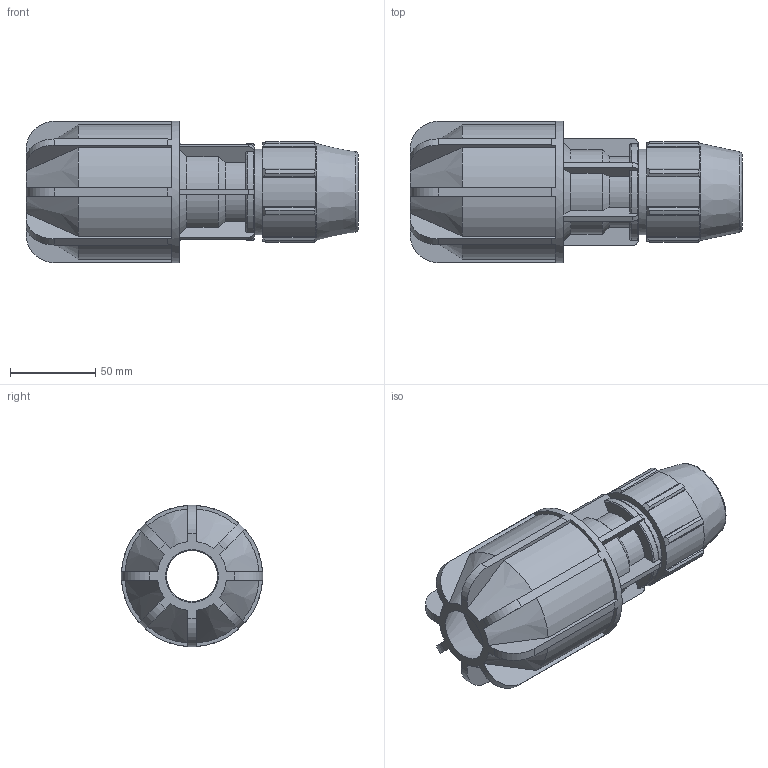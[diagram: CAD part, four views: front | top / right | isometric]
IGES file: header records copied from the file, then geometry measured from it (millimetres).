
Global section: file name: 070170M10035.ipt; native system: Autodesk Inventor 2019; preprocessor: unknown; author: KIM; date: 20210826.124337; units: inch
Bounding box: 195.07 x 83.06 x 83.06 mm (x, y, z)
Volume: 405845.4 mm3; surface area: 85259 mm2
Topology: 1 solids, 1 shells, 220 faces, 635 edges, 422 vertices
Faces by surface type: plane 111, cylinder 58, cone 30, revolution 21
Full cylindrical faces by diameter (mm): 50.394 x1, 83.058 x1
